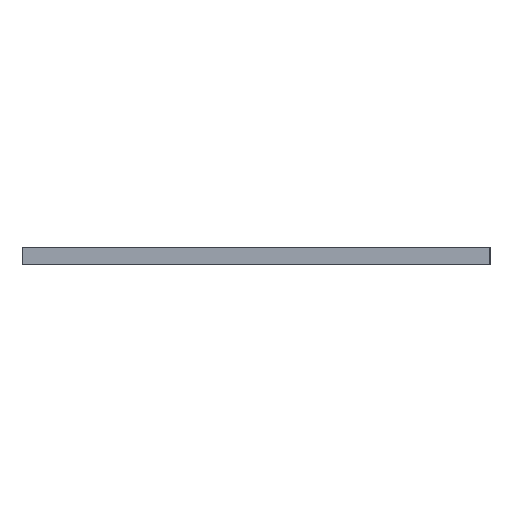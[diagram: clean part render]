
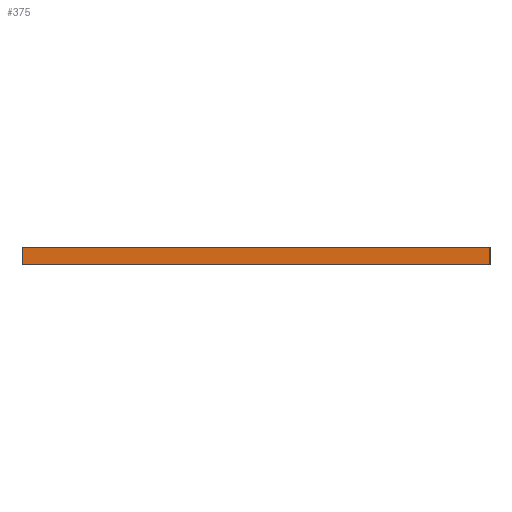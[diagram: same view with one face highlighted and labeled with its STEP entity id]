
A CAD part, left-side view. The second image highlights one B-rep face of the part: STEP entity #375.
In plain terms, the highlighted planar face has unit normal (-1, 0, 0).
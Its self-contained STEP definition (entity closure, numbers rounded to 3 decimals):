
#21 = EDGE_CURVE('',#22,#24,#26,.T.);
#22 = VERTEX_POINT('',#23);
#23 = CARTESIAN_POINT('',(11.75,25.5,3.));
#24 = VERTEX_POINT('',#25);
#25 = CARTESIAN_POINT('',(11.75,106.5,3.));
#26 = SURFACE_CURVE('',#27,(#31,#43),.PCURVE_S1.);
#27 = LINE('',#28,#29);
#28 = CARTESIAN_POINT('',(11.75,25.5,3.));
#29 = VECTOR('',#30,1.);
#30 = DIRECTION('',(0.,1.,0.));
#31 = PCURVE('',#32,#37);
#32 = PLANE('',#33);
#33 = AXIS2_PLACEMENT_3D('',#34,#35,#36);
#34 = CARTESIAN_POINT('',(11.75,25.5,3.));
#35 = DIRECTION('',(0.,0.,1.));
#36 = DIRECTION('',(1.,0.,0.));
#37 = DEFINITIONAL_REPRESENTATION('',(#38),#42);
#38 = LINE('',#39,#40);
#39 = CARTESIAN_POINT('',(0.,0.));
#40 = VECTOR('',#41,1.);
#41 = DIRECTION('',(0.,1.));
#42 = ( GEOMETRIC_REPRESENTATION_CONTEXT(2) 
PARAMETRIC_REPRESENTATION_CONTEXT() REPRESENTATION_CONTEXT('2D SPACE',''
  ) );
#43 = PCURVE('',#44,#49);
#44 = PLANE('',#45);
#45 = AXIS2_PLACEMENT_3D('',#46,#47,#48);
#46 = CARTESIAN_POINT('',(11.75,25.5,3.));
#47 = DIRECTION('',(1.,0.,0.));
#48 = DIRECTION('',(0.,0.,1.));
#49 = DEFINITIONAL_REPRESENTATION('',(#50),#54);
#50 = LINE('',#51,#52);
#51 = CARTESIAN_POINT('',(0.,0.));
#52 = VECTOR('',#53,1.);
#53 = DIRECTION('',(0.,-1.));
#54 = ( GEOMETRIC_REPRESENTATION_CONTEXT(2) 
PARAMETRIC_REPRESENTATION_CONTEXT() REPRESENTATION_CONTEXT('2D SPACE',''
  ) );
#72 = PLANE('',#73);
#73 = AXIS2_PLACEMENT_3D('',#74,#75,#76);
#74 = CARTESIAN_POINT('',(11.75,25.5,3.));
#75 = DIRECTION('',(0.,1.,0.));
#76 = DIRECTION('',(0.,0.,1.));
#126 = PLANE('',#127);
#127 = AXIS2_PLACEMENT_3D('',#128,#129,#130);
#128 = CARTESIAN_POINT('',(11.75,106.5,3.));
#129 = DIRECTION('',(0.,1.,0.));
#130 = DIRECTION('',(0.,0.,1.));
#375 = ADVANCED_FACE('',(#376),#44,.F.);
#376 = FACE_BOUND('',#377,.F.);
#377 = EDGE_LOOP('',(#378,#401,#402,#425));
#378 = ORIENTED_EDGE('',*,*,#379,.F.);
#379 = EDGE_CURVE('',#22,#380,#382,.T.);
#380 = VERTEX_POINT('',#381);
#381 = CARTESIAN_POINT('',(11.75,25.5,6.));
#382 = SURFACE_CURVE('',#383,(#387,#394),.PCURVE_S1.);
#383 = LINE('',#384,#385);
#384 = CARTESIAN_POINT('',(11.75,25.5,3.));
#385 = VECTOR('',#386,1.);
#386 = DIRECTION('',(0.,0.,1.));
#387 = PCURVE('',#44,#388);
#388 = DEFINITIONAL_REPRESENTATION('',(#389),#393);
#389 = LINE('',#390,#391);
#390 = CARTESIAN_POINT('',(0.,0.));
#391 = VECTOR('',#392,1.);
#392 = DIRECTION('',(1.,0.));
#393 = ( GEOMETRIC_REPRESENTATION_CONTEXT(2) 
PARAMETRIC_REPRESENTATION_CONTEXT() REPRESENTATION_CONTEXT('2D SPACE',''
  ) );
#394 = PCURVE('',#72,#395);
#395 = DEFINITIONAL_REPRESENTATION('',(#396),#400);
#396 = LINE('',#397,#398);
#397 = CARTESIAN_POINT('',(0.,0.));
#398 = VECTOR('',#399,1.);
#399 = DIRECTION('',(1.,0.));
#400 = ( GEOMETRIC_REPRESENTATION_CONTEXT(2) 
PARAMETRIC_REPRESENTATION_CONTEXT() REPRESENTATION_CONTEXT('2D SPACE',''
  ) );
#401 = ORIENTED_EDGE('',*,*,#21,.T.);
#402 = ORIENTED_EDGE('',*,*,#403,.T.);
#403 = EDGE_CURVE('',#24,#404,#406,.T.);
#404 = VERTEX_POINT('',#405);
#405 = CARTESIAN_POINT('',(11.75,106.5,6.));
#406 = SURFACE_CURVE('',#407,(#411,#418),.PCURVE_S1.);
#407 = LINE('',#408,#409);
#408 = CARTESIAN_POINT('',(11.75,106.5,3.));
#409 = VECTOR('',#410,1.);
#410 = DIRECTION('',(0.,0.,1.));
#411 = PCURVE('',#44,#412);
#412 = DEFINITIONAL_REPRESENTATION('',(#413),#417);
#413 = LINE('',#414,#415);
#414 = CARTESIAN_POINT('',(0.,-81.));
#415 = VECTOR('',#416,1.);
#416 = DIRECTION('',(1.,0.));
#417 = ( GEOMETRIC_REPRESENTATION_CONTEXT(2) 
PARAMETRIC_REPRESENTATION_CONTEXT() REPRESENTATION_CONTEXT('2D SPACE',''
  ) );
#418 = PCURVE('',#126,#419);
#419 = DEFINITIONAL_REPRESENTATION('',(#420),#424);
#420 = LINE('',#421,#422);
#421 = CARTESIAN_POINT('',(0.,0.));
#422 = VECTOR('',#423,1.);
#423 = DIRECTION('',(1.,0.));
#424 = ( GEOMETRIC_REPRESENTATION_CONTEXT(2) 
PARAMETRIC_REPRESENTATION_CONTEXT() REPRESENTATION_CONTEXT('2D SPACE',''
  ) );
#425 = ORIENTED_EDGE('',*,*,#426,.F.);
#426 = EDGE_CURVE('',#380,#404,#427,.T.);
#427 = SURFACE_CURVE('',#428,(#432,#439),.PCURVE_S1.);
#428 = LINE('',#429,#430);
#429 = CARTESIAN_POINT('',(11.75,25.5,6.));
#430 = VECTOR('',#431,1.);
#431 = DIRECTION('',(0.,1.,0.));
#432 = PCURVE('',#44,#433);
#433 = DEFINITIONAL_REPRESENTATION('',(#434),#438);
#434 = LINE('',#435,#436);
#435 = CARTESIAN_POINT('',(3.,0.));
#436 = VECTOR('',#437,1.);
#437 = DIRECTION('',(0.,-1.));
#438 = ( GEOMETRIC_REPRESENTATION_CONTEXT(2) 
PARAMETRIC_REPRESENTATION_CONTEXT() REPRESENTATION_CONTEXT('2D SPACE',''
  ) );
#439 = PCURVE('',#440,#445);
#440 = PLANE('',#441);
#441 = AXIS2_PLACEMENT_3D('',#442,#443,#444);
#442 = CARTESIAN_POINT('',(0.,0.,6.));
#443 = DIRECTION('',(0.,0.,-1.));
#444 = DIRECTION('',(-1.,0.,0.));
#445 = DEFINITIONAL_REPRESENTATION('',(#446),#450);
#446 = LINE('',#447,#448);
#447 = CARTESIAN_POINT('',(-11.75,25.5));
#448 = VECTOR('',#449,1.);
#449 = DIRECTION('',(0.,1.));
#450 = ( GEOMETRIC_REPRESENTATION_CONTEXT(2) 
PARAMETRIC_REPRESENTATION_CONTEXT() REPRESENTATION_CONTEXT('2D SPACE',''
  ) );
